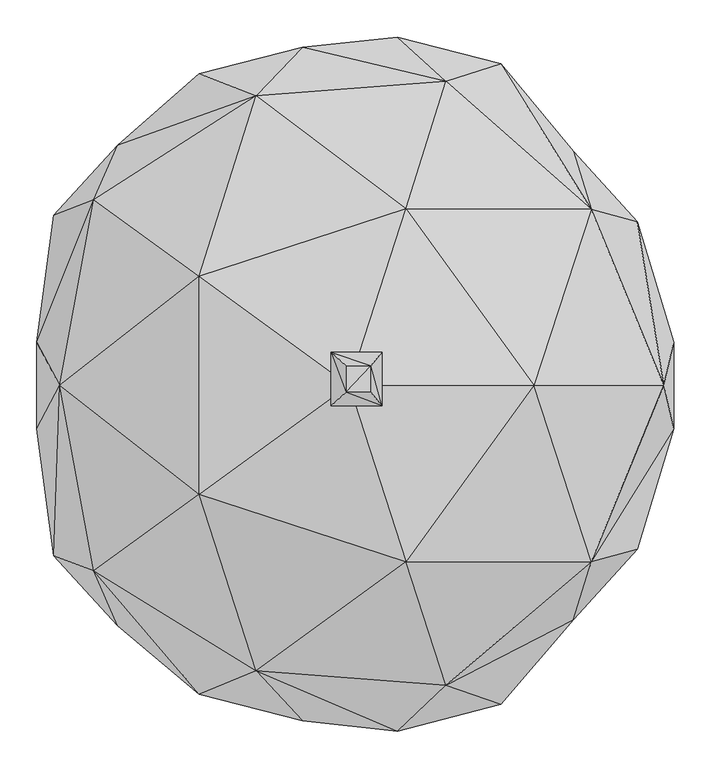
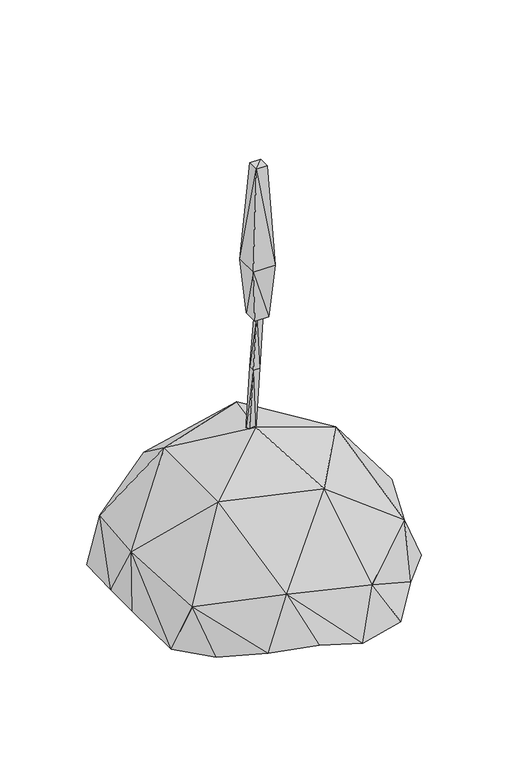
"""IFC4 building model written with IfcOpenShell, lengths in millimetres: geographic element geometry, Enscape AssetDefinition - Desert Spoon : Enscape AssetDefinition - Desert Spoon."""

from ifc_helpers import new_model, si_unit, origin, place, context, project, spatial, faceted_brep, source, transform, mapped, element, save


def geographic_element_90c88f6b(model_context):
    return source(origin(), model_context, "Body", "Brep", [
        faceted_brep([(77.3755834, 231.930241, 497.5196719), (-0.1228665, -6.5854914, 584.869504), (250.6673932, -6.5854914, 497.5196719), (-203.0164748, 140.8253163, 497.5196719), (-203.016445, -153.9963335, 497.5196719), (77.3756281, -245.1011837, 497.5196719), (328.165859, 231.930241, 307.4840605), (-125.5180389, 385.0497603, 307.4840605), (131.7253709, 404.9103856, 261.5615726), (-391.3793266, -6.5855347, 307.4840605), (-345.3060985, 244.2047596, 261.5615726), (-202.8535455, 414.6253765, 157.2964489), (-62.7697259, 450.901866, 157.296434), (-312.659651, 318.3333576, 127.2263825), (65.7490641, 464.4800723, 127.2263974), (205.8328837, 428.203553, 127.2263825), (-0.1228734, 173.6139804, -5.6e-06), (-181.9830239, 139.1989589, -4.6e-06), (-399.2362618, 223.3601809, 127.2263974), (-294.3788469, 49.0991697, -1.7e-06), (-0.1228542, -6.5854951, 0.0), (181.7373335, 139.1989291, -4.6e-06), (303.9745688, 309.9415898, 157.296434), (294.1331267, 49.099192, -1.7e-06), (390.5511796, 214.9684429, 157.2964489), (426.5470505, -6.5854914, 261.5615726), (439.7023916, 51.9014038, 127.2263974), (294.1331267, -62.2701943, 1.7e-06), (439.7023916, -65.4918104, 127.2263974), (328.1658888, -245.1011986, 307.4840605), (131.7254454, -412.3726487, 261.5615726), (390.5511796, -228.5588086, 157.2964489), (303.9746284, -323.5318959, 157.2964936), (181.7374229, -152.3699164, 4.6e-06), (205.8330327, -437.8910959, 127.2263974), (-125.5179644, -392.5120533, 307.4840605), (65.749228, -474.167645, 127.2263974), (-345.3060687, -257.3758066, 261.5615726), (-62.7695397, -460.5894387, 157.2964936), (-202.853471, -424.312979, 157.2964936), (-0.1226974, -186.7849529, 5.6e-06), (-181.9829941, -152.3699462, 4.6e-06), (-312.6596212, -331.9238126, 127.2263974), (-399.2361724, -236.9506061, 127.2263974), (-294.3788171, -62.2701868, 1.7e-06), (-422.2543836, -65.4918328, 157.296434), (-422.2543836, 51.9013554, 157.296434)], [[[0, 1, 2]], [[3, 1, 0]], [[4, 1, 3]], [[5, 1, 4]], [[2, 1, 5]], [[2, 6, 0]], [[0, 7, 3]], [[8, 0, 6]], [[7, 0, 8]], [[3, 9, 4]], [[10, 3, 7]], [[9, 3, 10]], [[11, 7, 12]], [[8, 12, 7]], [[7, 13, 10]], [[13, 7, 11]], [[14, 8, 15]], [[6, 15, 8]], [[12, 8, 14]], [[14, 16, 12]], [[17, 12, 16]], [[12, 17, 11]], [[11, 17, 13]], [[18, 10, 13]], [[19, 13, 17]], [[13, 19, 18]], [[20, 17, 16]], [[20, 19, 17]], [[20, 16, 21]], [[16, 15, 21]], [[15, 16, 14]], [[22, 21, 15]], [[15, 6, 22]], [[20, 21, 23]], [[21, 24, 23]], [[24, 21, 22]], [[22, 6, 24]], [[6, 2, 25]], [[25, 24, 6]], [[26, 23, 24]], [[24, 25, 26]], [[20, 23, 27]], [[26, 27, 23]], [[26, 25, 28]], [[26, 28, 27]], [[25, 2, 29]], [[29, 28, 25]], [[5, 29, 2]], [[29, 5, 30]], [[31, 29, 32]], [[30, 32, 29]], [[28, 29, 31]], [[31, 27, 28]], [[32, 27, 31]], [[20, 27, 33]], [[27, 32, 33]], [[34, 33, 32]], [[32, 30, 34]], [[30, 5, 35]], [[34, 30, 36]], [[35, 36, 30]], [[4, 35, 5]], [[35, 4, 37]], [[38, 35, 39]], [[37, 39, 35]], [[36, 35, 38]], [[38, 40, 36]], [[33, 36, 40]], [[36, 33, 34]], [[20, 33, 40]], [[20, 40, 41]], [[40, 39, 41]], [[39, 40, 38]], [[42, 41, 39]], [[39, 37, 42]], [[37, 4, 9]], [[42, 37, 43]], [[9, 43, 37]], [[43, 41, 42]], [[20, 41, 44]], [[41, 43, 44]], [[45, 44, 43]], [[43, 9, 45]], [[45, 9, 46]], [[10, 46, 9]], [[46, 44, 45]], [[20, 44, 19]], [[44, 46, 19]], [[18, 19, 46]], [[46, 10, 18]]]),
        faceted_brep([(32.1177915, 25.0110235, 949.3535161), (-11.6653657, 25.0110198, 949.3535161), (-24.1568722, 38.2373109, 1124.0200996), (-11.6653657, -21.3476103, 949.3535161), (32.1177915, -21.3476103, 949.3535161), (-24.1568778, -34.5739201, 1124.0200996), (44.6093008, 38.2373072, 1124.0200996), (44.6092971, -34.5739312, 1124.0200996), (-4.1842223, -16.2918922, 1447.7174282), (30.0490744, 19.9551284, 1447.7174282), (30.0490744, -16.2918922, 1447.7174282), (-4.1842223, 19.9551284, 1447.7174282)], [[[0, 1, 2]], [[3, 1, 4]], [[5, 2, 1]], [[4, 1, 0]], [[5, 1, 3]], [[4, 0, 6]], [[0, 2, 6]], [[5, 3, 4]], [[5, 4, 7]], [[4, 6, 7]], [[5, 7, 8]], [[8, 2, 5]], [[7, 6, 9]], [[8, 7, 10]], [[7, 9, 10]], [[6, 2, 9]], [[10, 9, 8]], [[8, 9, 11]], [[9, 2, 11]], [[8, 11, 2]]]),
        faceted_brep([(5.8008027, 20.3128941, 562.6442432), (-15.9671251, 20.3128941, 562.6442432), (-5.9760879, 17.4094476, 773.27317), (-15.9671251, 3.0921863, 562.6442432), (5.8008051, 3.092184, 562.6442432), (-5.9760879, -2.8190413, 773.2731104), (14.8979994, 17.4094476, 773.27317), (2.741921, -7.0615048, 957.0643306), (2.741921, 8.2554398, 957.0643306), (14.8980012, -2.8190413, 773.2731104), (22.8360649, 8.2554379, 957.0643306), (22.8360649, -7.0615094, 957.0643306)], [[[0, 1, 2]], [[3, 1, 4]], [[5, 2, 1]], [[4, 1, 0]], [[5, 1, 3]], [[4, 0, 6]], [[0, 2, 6]], [[7, 8, 2]], [[6, 2, 8]], [[7, 2, 5]], [[5, 3, 4]], [[5, 9, 7]], [[5, 4, 9]], [[4, 6, 9]], [[9, 6, 10]], [[6, 8, 10]], [[7, 10, 8]], [[11, 10, 7]], [[7, 9, 11]], [[9, 10, 11]]]),
    ])


if __name__ == "__main__":
    model = new_model("IFC4")
    model_context = context("Model", 3, world=origin())
    ifc_project = project(units=[si_unit("LENGTHUNIT", "METRE", prefix="MILLI")], contexts=[model_context])
    site = spatial("IfcSite", under=ifc_project)
    building = spatial("IfcBuilding", under=site)
    placement = place(None, origin())
    geographic_element_shape = geographic_element_90c88f6b(model_context)
    element("IfcGeographicElement", 1, ObjectType="Enscape AssetDefinition - Desert Spoon : Enscape AssetDefinition - Desert Spoon", at=placement, inside=building, context=model_context, shape_type="MappedRepresentation", body=[
        mapped(geographic_element_shape, transform((0.0, 0.0, 0.0), x_axis=(1.0, 0.0, 0.0), y_axis=(0.0, 1.0, 0.0), z_axis=(0.0, 0.0, 1.0))),
    ])
    save(model, "model.ifc")
